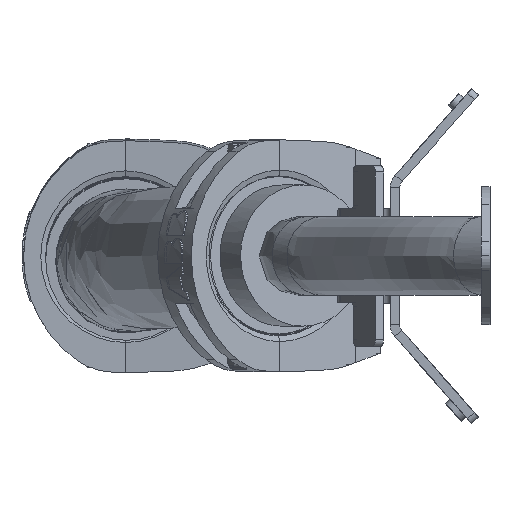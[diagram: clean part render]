
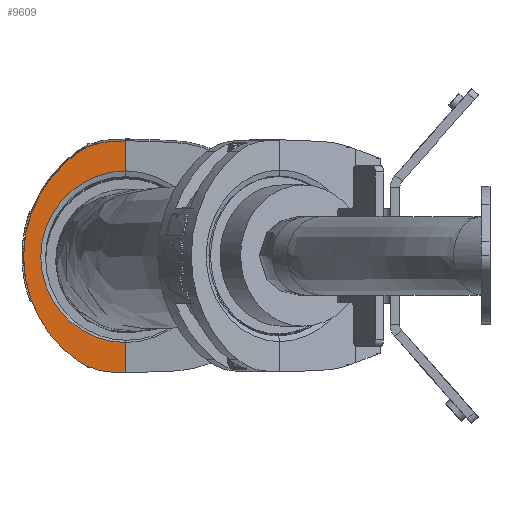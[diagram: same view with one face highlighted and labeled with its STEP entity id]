
A CAD part, left-side view. The second image highlights one B-rep face of the part: STEP entity #9609.
In plain terms, the highlighted planar face has unit normal (-0.999, -0.035, -0.028).
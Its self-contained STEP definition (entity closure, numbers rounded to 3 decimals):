
#661 = ORIENTED_EDGE ( 'NONE', *, *, #5043, .T. ) ;
#1054 = CARTESIAN_POINT ( 'NONE',  ( 2144.498, 351.872, 2590.62 ) ) ;
#1786 = CARTESIAN_POINT ( 'NONE',  ( 2145.354, 321.274, 2598.218 ) ) ;
#1866 = DIRECTION ( 'NONE',  ( 0.999, 0.035, 0.028 ) ) ;
#1966 = EDGE_CURVE ( 'NONE', #13772, #4888, #23121, .T. ) ;
#1986 = AXIS2_PLACEMENT_3D ( 'NONE', #10606, #19685, #23600 ) ;
#1999 = DIRECTION ( 'NONE',  ( -0.036, 0.999, 0.034 ) ) ;
#2234 = LINE ( 'NONE', #20873, #13147 ) ;
#2498 = ORIENTED_EDGE ( 'NONE', *, *, #1966, .T. ) ;
#2785 = LINE ( 'NONE', #19716, #18259 ) ;
#3301 = CARTESIAN_POINT ( 'NONE',  ( 2145.89, 321.274, 2579.162 ) ) ;
#3374 = VERTEX_POINT ( 'NONE', #1786 ) ;
#3419 = EDGE_CURVE ( 'NONE', #8038, #22491, #22195, .T. ) ;
#3881 = DIRECTION ( 'NONE',  ( 0.028, 0., -1. ) ) ;
#4178 = PLANE ( 'NONE',  #4517 ) ;
#4517 = AXIS2_PLACEMENT_3D ( 'NONE', #22444, #1866, #5802 ) ;
#4888 = VERTEX_POINT ( 'NONE', #3301 ) ;
#5043 = EDGE_CURVE ( 'NONE', #6259, #6124, #24254, .T. ) ;
#5802 = DIRECTION ( 'NONE',  ( 0., 0.627, -0.779 ) ) ;
#6124 = VERTEX_POINT ( 'NONE', #9571 ) ;
#6259 = VERTEX_POINT ( 'NONE', #9067 ) ;
#6328 = EDGE_CURVE ( 'NONE', #3374, #6259, #2234, .T. ) ;
#7047 = CARTESIAN_POINT ( 'NONE',  ( 2143.735, 402.271, 2555.138 ) ) ;
#7553 =( BOUNDED_CURVE ( )  B_SPLINE_CURVE ( 3, ( #22083, #7047, #12542, #20257 ),
 .UNSPECIFIED., .F., .T. ) 
 B_SPLINE_CURVE_WITH_KNOTS ( ( 4, 4 ),
 ( 2.184, 4.099 ),
 .UNSPECIFIED. ) 
 CURVE ( )  GEOMETRIC_REPRESENTATION_ITEM ( )  RATIONAL_B_SPLINE_CURVE ( ( 1., 0.717, 0.717, 1. ) ) 
 REPRESENTATION_ITEM ( '' )  );
#7648 = VECTOR ( 'NONE', #1999, 1000. ) ;
#8038 = VERTEX_POINT ( 'NONE', #17934 ) ;
#9062 = CARTESIAN_POINT ( 'NONE',  ( 2148.573, 345.478, 2453.675 ) ) ;
#9067 = CARTESIAN_POINT ( 'NONE',  ( 2145.049, 330.257, 2597.895 ) ) ;
#9153 = EDGE_CURVE ( 'NONE', #21631, #22491, #18804, .T. ) ;
#9294 = CARTESIAN_POINT ( 'NONE',  ( 2149.501, 321.341, 2450.628 ) ) ;
#9568 = ORIENTED_EDGE ( 'NONE', *, *, #23940, .F. ) ;
#9571 = CARTESIAN_POINT ( 'NONE',  ( 2144.498, 351.872, 2590.62 ) ) ;
#9609 = ADVANCED_FACE ( 'NONE', ( #9729 ), #4178, .F. ) ;
#9729 = FACE_OUTER_BOUND ( 'NONE', #22770, .T. ) ;
#10606 = CARTESIAN_POINT ( 'NONE',  ( 2147.454, 320.556, 2524.422 ) ) ;
#11144 = ORIENTED_EDGE ( 'NONE', *, *, #11555, .F. ) ;
#11238 = ORIENTED_EDGE ( 'NONE', *, *, #6328, .T. ) ;
#11555 = EDGE_CURVE ( 'NONE', #13772, #21631, #18968, .T. ) ;
#12232 = CARTESIAN_POINT ( 'NONE',  ( 2148.968, 321.274, 2469.682 ) ) ;
#12366 = CARTESIAN_POINT ( 'NONE',  ( 2144.784, 338.068, 2597.615 ) ) ;
#12542 = CARTESIAN_POINT ( 'NONE',  ( 2145.467, 402.271, 2493.546 ) ) ;
#13147 = VECTOR ( 'NONE', #22720, 1000. ) ;
#13198 = CARTESIAN_POINT ( 'NONE',  ( 2148.223, 351.872, 2458.163 ) ) ;
#13772 = VERTEX_POINT ( 'NONE', #12232 ) ;
#14670 = CARTESIAN_POINT ( 'NONE',  ( 2148.901, 338.068, 2451.195 ) ) ;
#15722 = EDGE_CURVE ( 'NONE', #6124, #8038, #7553, .T. ) ;
#16504 = ORIENTED_EDGE ( 'NONE', *, *, #3419, .T. ) ;
#16905 = CARTESIAN_POINT ( 'NONE',  ( 2149.504, 321.274, 2450.625 ) ) ;
#17517 = ORIENTED_EDGE ( 'NONE', *, *, #15722, .T. ) ;
#17862 = CARTESIAN_POINT ( 'NONE',  ( 2145.049, 330.257, 2597.895 ) ) ;
#17873 = DIRECTION ( 'NONE',  ( 0.028, 0., -1. ) ) ;
#17934 = CARTESIAN_POINT ( 'NONE',  ( 2148.223, 351.872, 2458.163 ) ) ;
#18085 = VECTOR ( 'NONE', #3881, 1000. ) ;
#18259 = VECTOR ( 'NONE', #17873, 1000. ) ;
#18804 = LINE ( 'NONE', #9294, #7648 ) ;
#18968 = LINE ( 'NONE', #16905, #18085 ) ;
#19630 = CARTESIAN_POINT ( 'NONE',  ( 2149.181, 330.257, 2450.93 ) ) ;
#19685 = DIRECTION ( 'NONE',  ( 0.999, 0.035, 0.028 ) ) ;
#19716 = CARTESIAN_POINT ( 'NONE',  ( 2149.504, 321.274, 2450.625 ) ) ;
#19833 = CARTESIAN_POINT ( 'NONE',  ( 2144.595, 345.478, 2595.121 ) ) ;
#19843 = ORIENTED_EDGE ( 'NONE', *, *, #9153, .F. ) ;
#20257 = CARTESIAN_POINT ( 'NONE',  ( 2148.223, 351.872, 2458.163 ) ) ;
#20658 = CARTESIAN_POINT ( 'NONE',  ( 2149.181, 330.257, 2450.93 ) ) ;
#20873 = CARTESIAN_POINT ( 'NONE',  ( 2143.285, 382.262, 2596.029 ) ) ;
#21631 = VERTEX_POINT ( 'NONE', #22608 ) ;
#22083 = CARTESIAN_POINT ( 'NONE',  ( 2144.498, 351.872, 2590.62 ) ) ;
#22195 =( BOUNDED_CURVE ( )  B_SPLINE_CURVE ( 3, ( #13198, #9062, #14670, #20658 ),
 .UNSPECIFIED., .F., .T. ) 
 B_SPLINE_CURVE_WITH_KNOTS ( ( 4, 4 ),
 ( 4.099, 4.677 ),
 .UNSPECIFIED. ) 
 CURVE ( )  GEOMETRIC_REPRESENTATION_ITEM ( )  RATIONAL_B_SPLINE_CURVE ( ( 1., 0.972, 0.972, 1. ) ) 
 REPRESENTATION_ITEM ( '' )  );
#22444 = CARTESIAN_POINT ( 'NONE',  ( 2148.32, 376.274, 2424.407 ) ) ;
#22491 = VERTEX_POINT ( 'NONE', #19630 ) ;
#22608 = CARTESIAN_POINT ( 'NONE',  ( 2149.504, 321.274, 2450.625 ) ) ;
#22720 = DIRECTION ( 'NONE',  ( -0.034, 0.999, -0.036 ) ) ;
#22770 = EDGE_LOOP ( 'NONE', ( #16504, #19843, #11144, #2498, #9568, #11238, #661, #17517 ) ) ;
#23121 = CIRCLE ( 'NONE', #1986, 54.766 ) ;
#23600 = DIRECTION ( 'NONE',  ( -0.035, 0.999, -0.001 ) ) ;
#23940 = EDGE_CURVE ( 'NONE', #3374, #4888, #2785, .T. ) ;
#24254 =( BOUNDED_CURVE ( )  B_SPLINE_CURVE ( 3, ( #17862, #12366, #19833, #1054 ),
 .UNSPECIFIED., .F., .T. ) 
 B_SPLINE_CURVE_WITH_KNOTS ( ( 4, 4 ),
 ( 1.606, 2.184 ),
 .UNSPECIFIED. ) 
 CURVE ( )  GEOMETRIC_REPRESENTATION_ITEM ( )  RATIONAL_B_SPLINE_CURVE ( ( 1., 0.972, 0.972, 1. ) ) 
 REPRESENTATION_ITEM ( '' )  );
